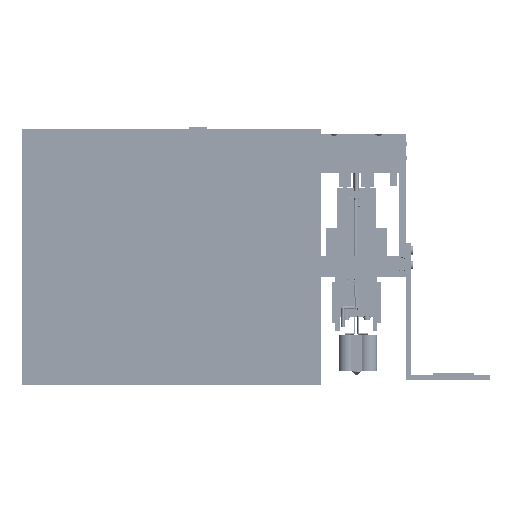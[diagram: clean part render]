
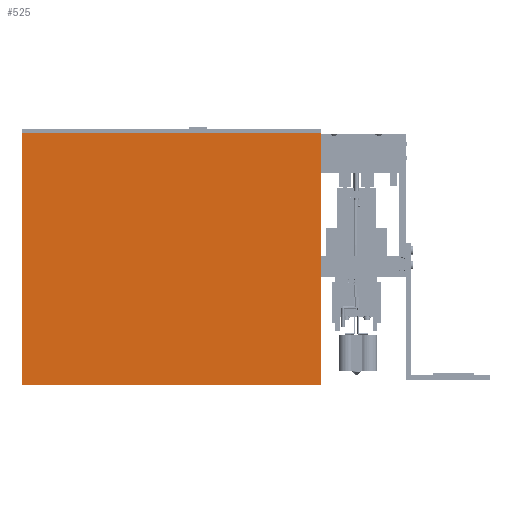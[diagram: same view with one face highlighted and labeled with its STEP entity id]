
A CAD part, front view. The second image highlights one B-rep face of the part: STEP entity #525.
In plain terms, the highlighted planar face has unit normal (0, -1, 0).
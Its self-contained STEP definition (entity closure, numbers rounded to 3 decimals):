
#11=DIRECTION('',(1.0,0.0,0.0));
#12=DIRECTION('',(0.0,0.0,1.0));
#15=DIRECTION('',(0.0,1.0,0.0));
#16=DIRECTION('',(-1.0,0.0,0.0));
#25=DIRECTION('',(0.0,-0.0,1.0));
#32=DIRECTION('',(0.0,-1.0,0.0));
#38=(GEOMETRIC_REPRESENTATION_CONTEXT(2)PARAMETRIC_REPRESENTATION_CONTEXT()REPRESENTATION_CONTEXT('2D SPACE',''));
#107=CARTESIAN_POINT('',(0.0,0.0));
#125=DIRECTION('',(0.0,0.0,-1.0));
#366=CARTESIAN_POINT('',(110.012,-171.112,93.4));
#367=AXIS2_PLACEMENT_3D('',#366,#25,#15);
#368=PLANE('',#367);
#371=CARTESIAN_POINT('',(-100.0,-62.6,93.4));
#372=VERTEX_POINT('',#371);
#376=CARTESIAN_POINT('',(108.512,210.012));
#380=CARTESIAN_POINT('',(-100.0,-59.6,-75.0));
#381=AXIS2_PLACEMENT_3D('',#380,#16,#32);
#382=PLANE('',#381);
#383=CARTESIAN_POINT('',(0.0,168.4));
#384=CARTESIAN_POINT('',(3.0,168.4));
#391=CARTESIAN_POINT('',(100.0,-62.6,93.4));
#392=VERTEX_POINT('',#391);
#393=VECTOR('',#11,200.0);
#394=LINE('',#371,#393);
#395=CARTESIAN_POINT('',(108.512,10.012));
#396=B_SPLINE_CURVE_WITH_KNOTS('',1,(#376,#395),.UNSPECIFIED.,.F.,.F.,(2,2),(0.0,1.0),.UNSPECIFIED.);
#397=DEFINITIONAL_REPRESENTATION('',(#396),#38);
#398=PCURVE('',#368,#397);
#399=CARTESIAN_POINT('',(-100.0,-62.6,-75.0));
#400=AXIS2_PLACEMENT_3D('',#399,#32,#11);
#401=PLANE('',#400);
#402=CARTESIAN_POINT('',(200.0,168.4));
#403=B_SPLINE_CURVE_WITH_KNOTS('',1,(#383,#402),.UNSPECIFIED.,.F.,.F.,(2,2),(0.0,1.0),.UNSPECIFIED.);
#404=DEFINITIONAL_REPRESENTATION('',(#403),#38);
#405=PCURVE('',#401,#404);
#406=SURFACE_CURVE('',#394,(#398,#405),.CURVE_3D.);
#407=EDGE_CURVE('',#372,#392,#406,.T.);
#418=CARTESIAN_POINT('',(100.0,-62.6,-75.0));
#419=AXIS2_PLACEMENT_3D('',#418,#11,#15);
#420=PLANE('',#419);
#441=VECTOR('',#12,168.4);
#443=B_SPLINE_CURVE_WITH_KNOTS('',1,(#107,#383),.UNSPECIFIED.,.F.,.F.,(2,2),(0.0,1.0),.UNSPECIFIED.);
#444=DEFINITIONAL_REPRESENTATION('',(#443),#38);
#446=CARTESIAN_POINT('',(3.0,0.0));
#447=B_SPLINE_CURVE_WITH_KNOTS('',1,(#446,#384),.UNSPECIFIED.,.F.,.F.,(2,2),(0.0,1.0),.UNSPECIFIED.);
#448=DEFINITIONAL_REPRESENTATION('',(#447),#38);
#455=CARTESIAN_POINT('',(200.0,0.0));
#456=B_SPLINE_CURVE_WITH_KNOTS('',1,(#107,#455),.UNSPECIFIED.,.F.,.F.,(2,2),(0.0,1.0),.UNSPECIFIED.);
#457=DEFINITIONAL_REPRESENTATION('',(#456),#38);
#459=CARTESIAN_POINT('',(110.012,-171.112,-75.0));
#460=AXIS2_PLACEMENT_3D('',#459,#125,#16);
#461=PLANE('',#460);
#471=B_SPLINE_CURVE_WITH_KNOTS('',1,(#455,#402),.UNSPECIFIED.,.F.,.F.,(2,2),(0.0,1.0),.UNSPECIFIED.);
#472=DEFINITIONAL_REPRESENTATION('',(#471),#38);
#483=VERTEX_POINT('',#399);
#488=CARTESIAN_POINT('',(210.012,108.512));
#495=LINE('',#399,#441);
#496=PCURVE('',#382,#448);
#497=PCURVE('',#401,#444);
#498=SURFACE_CURVE('',#495,(#496,#497),.CURVE_3D.);
#499=EDGE_CURVE('',#483,#372,#498,.T.);
#505=ORIENTED_EDGE('',*,*,#499,.F.);
#506=VERTEX_POINT('',#418);
#507=LINE('',#399,#393);
#508=PCURVE('',#401,#457);
#509=CARTESIAN_POINT('',(10.012,108.512));
#510=B_SPLINE_CURVE_WITH_KNOTS('',1,(#488,#509),.UNSPECIFIED.,.F.,.F.,(2,2),(0.0,1.0),.UNSPECIFIED.);
#511=DEFINITIONAL_REPRESENTATION('',(#510),#38);
#512=PCURVE('',#461,#511);
#513=SURFACE_CURVE('',#507,(#508,#512),.CURVE_3D.);
#514=EDGE_CURVE('',#483,#506,#513,.T.);
#515=ORIENTED_EDGE('',*,*,#514,.T.);
#516=LINE('',#418,#441);
#517=PCURVE('',#401,#472);
#518=PCURVE('',#420,#444);
#519=SURFACE_CURVE('',#516,(#517,#518),.CURVE_3D.);
#520=EDGE_CURVE('',#506,#392,#519,.T.);
#521=ORIENTED_EDGE('',*,*,#520,.T.);
#522=ORIENTED_EDGE('',*,*,#407,.F.);
#523=EDGE_LOOP('',(#505,#515,#521,#522));
#524=FACE_OUTER_BOUND('',#523,.T.);
#525=ADVANCED_FACE('',(#524),#401,.T.);
